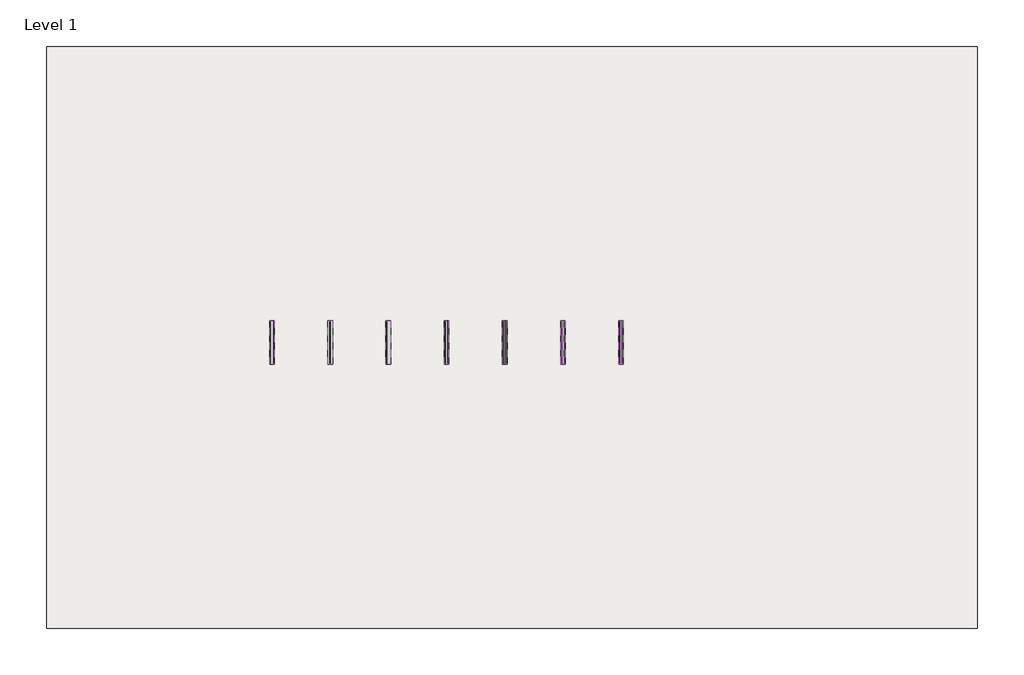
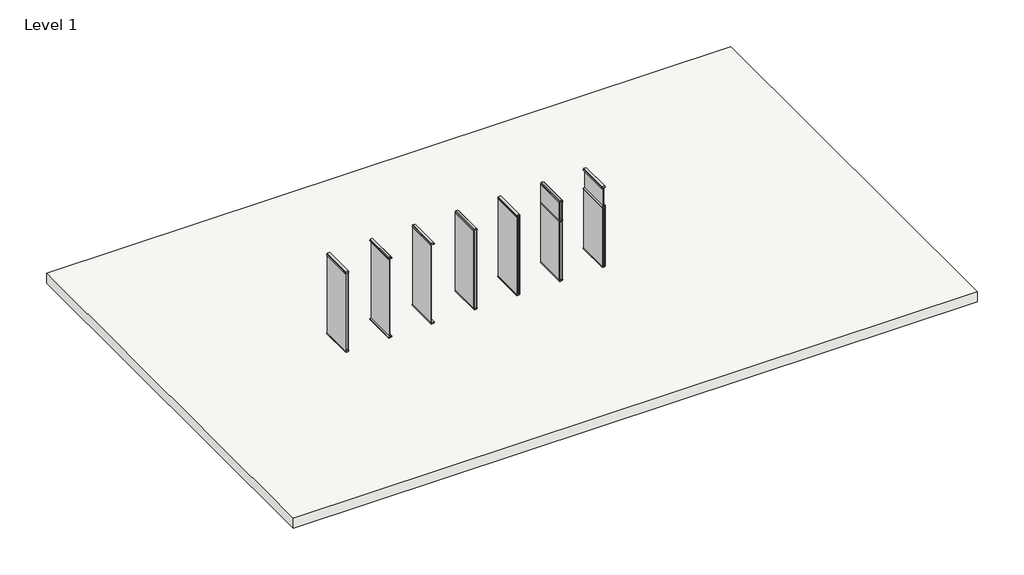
# One storey: 17 proxies, 16 members, 1 slab.
"""IFC4 building model written with IfcOpenShell, lengths in millimetres."""

from ifc_helpers import new_model, si_unit, frame, origin, place, context, project, spatial, polyline, outline, extrude, transform, mapped, element, save
from components import hardware_teknion_electrical_module_receptacle_module_9a6c8bcf, panel_fascia_teknion_focus_clerestory_glass_8944ff04, panel_fascia_teknion_focus_clerestory_glass_b00a05dd, panel_fascia_teknion_focus_glass_fwg_2c213c9e, panel_fascia_teknion_focus_glass_fwg_2d823114, panel_fascia_teknion_focus_solid_with_cutout_fws3_29f18c5e, panel_fascia_teknion_focus_solid_without_cutout_fws1_c4e99436, panel_fascia_teknion_focus_solid_without_cutout_fws1_36857b67, panel_fascia_teknion_focus_solid_without_cutout_fws1_06f19bdd, panel_fascia_teknion_focus_solid_without_cutout_fws1_a7163688, rectangular_mullion_f7915584, rectangular_mullion_34f2c36c, rectangular_mullion_a94b21ff, rectangular_mullion_0b3d91d6, rectangular_mullion_4fcc7cb8, rectangular_mullion_ff33a640, rectangular_mullion_0c8c3a63, rectangular_mullion_3b6ea71f, rectangular_mullion_ca275080, rectangular_mullion_2dd43c7a

model = new_model("IFC4")

# Units and contexts
model_context = context("Model", 3, world=origin())
ifc_project = project(units=[si_unit("LENGTHUNIT", "METRE", prefix="MILLI")], contexts=[model_context])

# Site, building, storey
site = spatial("IfcSite", under=ifc_project)
building = spatial("IfcBuilding", under=site)
storey = spatial("IfcBuildingStorey", under=building, Name="Level 1", Elevation=0.0)

# Proxies
placement = place(None, origin())
hardware_teknion_electrical_module_receptacle_module_shape = hardware_teknion_electrical_module_receptacle_module_9a6c8bcf(model_context)
element("IfcBuildingElementProxy", 1, Name="Hardware-Teknion-Electrical_Module : Receptacle Module", ObjectType="Hardware-Teknion-Electrical_Module : Receptacle Module", at=placement, inside=storey, context=model_context, shape_type="MappedRepresentation", body=[
    mapped(hardware_teknion_electrical_module_receptacle_module_shape, transform((-1155.1611367, 1970.21459, 520.9637545), x_axis=(0.0, -1.0, 0.0), y_axis=(0.0, 0.0, -1.0), z_axis=(1.0, 0.0, 0.0))),
])
element("IfcBuildingElementProxy", 2, Name="Hardware-Teknion-Electrical_Module : Receptacle Module", ObjectType="Hardware-Teknion-Electrical_Module : Receptacle Module", at=placement, inside=storey, context=model_context, shape_type="MappedRepresentation", body=[
    mapped(hardware_teknion_electrical_module_receptacle_module_shape, transform((-1155.1611367, 1870.21459, 520.9637545), x_axis=(0.0, -1.0, 0.0), y_axis=(0.0, 0.0, -1.0), z_axis=(1.0, 0.0, 0.0))),
])
panel_fascia_teknion_focus_clerestory_glass_shape = panel_fascia_teknion_focus_clerestory_glass_8944ff04(model_context)
element("IfcBuildingElementProxy", 3, Name="Panel-Fascia-Teknion-Focus-Clerestory_Glass : FWGS", ObjectType="Panel-Fascia-Teknion-Focus-Clerestory_Glass : FWGS", at=placement, inside=storey, context=model_context, shape_type="MappedRepresentation", body=[
    mapped(panel_fascia_teknion_focus_clerestory_glass_shape, transform((1240.9888633, 2020.21459, 1828.3), x_axis=(0.0, -1.0, 0.0), y_axis=(1.0, 0.0, 0.0), z_axis=(0.0, 0.0, 1.0))),
])
panel_fascia_teknion_focus_clerestory_glass_2_shape = panel_fascia_teknion_focus_clerestory_glass_b00a05dd(model_context)
element("IfcBuildingElementProxy", 4, Name="Panel-Fascia-Teknion-Focus-Clerestory_Glass : FWGS", ObjectType="Panel-Fascia-Teknion-Focus-Clerestory_Glass : FWGS", at=placement, inside=storey, context=model_context, shape_type="MappedRepresentation", body=[
    mapped(panel_fascia_teknion_focus_clerestory_glass_2_shape, transform((58.4888633, 2020.21459, 1829.5401613), x_axis=(0.0, -1.0, 0.0), y_axis=(1.0, 0.0, 0.0), z_axis=(0.0, 0.0, 1.0))),
])
element("IfcBuildingElementProxy", 5, Name="Panel-Fascia-Teknion-Focus-Clerestory_Glass : FWGS", ObjectType="Panel-Fascia-Teknion-Focus-Clerestory_Glass : FWGS", at=placement, inside=storey, context=model_context, shape_type="MappedRepresentation", body=[
    mapped(panel_fascia_teknion_focus_clerestory_glass_2_shape, transform((-14.9111367, 2020.21459, 1829.5401613), x_axis=(0.0, -1.0, 0.0), y_axis=(1.0, 0.0, 0.0), z_axis=(0.0, 0.0, 1.0))),
])
panel_fascia_teknion_focus_glass_fwg_shape = panel_fascia_teknion_focus_glass_fwg_2c213c9e(model_context)
element("IfcBuildingElementProxy", 6, Name="Panel-Fascia-Teknion-Focus-Glass : FWG", ObjectType="Panel-Fascia-Teknion-Focus-Glass : FWG", at=placement, inside=storey, context=model_context, shape_type="MappedRepresentation", body=[
    mapped(panel_fascia_teknion_focus_glass_fwg_shape, transform((-3672.5111367, 2020.21459, 32.0), x_axis=(0.0, -1.0, 0.0), y_axis=(1.0, 0.0, 0.0), z_axis=(0.0, 0.0, 1.0))),
])
element("IfcBuildingElementProxy", 7, Name="Panel-Fascia-Teknion-Focus-Glass : FWG", ObjectType="Panel-Fascia-Teknion-Focus-Glass : FWG", at=placement, inside=storey, context=model_context, shape_type="MappedRepresentation", body=[
    mapped(panel_fascia_teknion_focus_glass_fwg_shape, transform((-6037.5111367, 2020.21459, 32.0), x_axis=(0.0, -1.0, 0.0), y_axis=(1.0, 0.0, 0.0), z_axis=(0.0, 0.0, 1.0))),
])
element("IfcBuildingElementProxy", 8, Name="Panel-Fascia-Teknion-Focus-Glass : FWG", ObjectType="Panel-Fascia-Teknion-Focus-Glass : FWG", at=placement, inside=storey, context=model_context, shape_type="MappedRepresentation", body=[
    mapped(panel_fascia_teknion_focus_glass_fwg_shape, transform((-6110.9111367, 2020.21459, 32.0), x_axis=(0.0, -1.0, 0.0), y_axis=(1.0, 0.0, 0.0), z_axis=(0.0, 0.0, 1.0))),
])
panel_fascia_teknion_focus_glass_fwg_2_shape = panel_fascia_teknion_focus_glass_fwg_2d823114(model_context)
element("IfcBuildingElementProxy", 9, Name="Panel-Fascia-Teknion-Focus-Glass : FWG", ObjectType="Panel-Fascia-Teknion-Focus-Glass : FWG", at=placement, inside=storey, context=model_context, shape_type="MappedRepresentation", body=[
    mapped(panel_fascia_teknion_focus_glass_fwg_2_shape, transform((-4855.0111367, 2020.21459, 31.999989), x_axis=(0.0, -1.0, 0.0), y_axis=(1.0, 0.0, 0.0), z_axis=(0.0, 0.0, 1.0))),
])
panel_fascia_teknion_focus_solid_with_cutout_fws3_shape = panel_fascia_teknion_focus_solid_with_cutout_fws3_29f18c5e(model_context)
element("IfcBuildingElementProxy", 10, Name="Panel-Fascia-Teknion-Focus-Solid_With_Cutout : FWS3", ObjectType="Panel-Fascia-Teknion-Focus-Solid_With_Cutout : FWS3", at=placement, inside=storey, context=model_context, shape_type="MappedRepresentation", body=[
    mapped(panel_fascia_teknion_focus_solid_with_cutout_fws3_shape, transform((-1164.4111367, 2020.21459, 31.6999916), x_axis=(0.0, -1.0, 0.0), y_axis=(1.0, 0.0, 0.0), z_axis=(0.0, 0.0, 1.0))),
])
panel_fascia_teknion_focus_solid_without_cutout_fws1_shape = panel_fascia_teknion_focus_solid_without_cutout_fws1_c4e99436(model_context)
element("IfcBuildingElementProxy", 11, Name="Panel-Fascia-Teknion-Focus-Solid_Without_Cutout : FWS1", ObjectType="Panel-Fascia-Teknion-Focus-Solid_Without_Cutout : FWS1", at=placement, inside=storey, context=model_context, shape_type="MappedRepresentation", body=[
    mapped(panel_fascia_teknion_focus_solid_without_cutout_fws1_shape, transform((-1230.4111367, 2020.21459, 31.6999916), x_axis=(0.0, -1.0, 0.0), y_axis=(1.0, 0.0, 0.0), z_axis=(0.0, 0.0, 1.0))),
])
panel_fascia_teknion_focus_solid_without_cutout_fws1_2_shape = panel_fascia_teknion_focus_solid_without_cutout_fws1_36857b67(model_context)
element("IfcBuildingElementProxy", 12, Name="Panel-Fascia-Teknion-Focus-Solid_Without_Cutout : FWS1", ObjectType="Panel-Fascia-Teknion-Focus-Solid_Without_Cutout : FWS1", at=placement, inside=storey, context=model_context, shape_type="MappedRepresentation", body=[
    mapped(panel_fascia_teknion_focus_solid_without_cutout_fws1_2_shape, transform((-2383.6111367, 2020.21459, 31.6999916), x_axis=(0.0, -1.0, 0.0), y_axis=(1.0, 0.0, 0.0), z_axis=(0.0, 0.0, 1.0))),
])
element("IfcBuildingElementProxy", 13, Name="Panel-Fascia-Teknion-Focus-Solid_Without_Cutout : FWS1", ObjectType="Panel-Fascia-Teknion-Focus-Solid_Without_Cutout : FWS1", at=placement, inside=storey, context=model_context, shape_type="MappedRepresentation", body=[
    mapped(panel_fascia_teknion_focus_solid_without_cutout_fws1_2_shape, transform((-2449.6111367, 2020.21459, 31.6999916), x_axis=(0.0, -1.0, 0.0), y_axis=(1.0, 0.0, 0.0), z_axis=(0.0, 0.0, 1.0))),
])
panel_fascia_teknion_focus_solid_without_cutout_fws1_3_shape = panel_fascia_teknion_focus_solid_without_cutout_fws1_06f19bdd(model_context)
element("IfcBuildingElementProxy", 14, Name="Panel-Fascia-Teknion-Focus-Solid_Without_Cutout : FWS1", ObjectType="Panel-Fascia-Teknion-Focus-Solid_Without_Cutout : FWS1", at=placement, inside=storey, context=model_context, shape_type="MappedRepresentation", body=[
    mapped(panel_fascia_teknion_focus_solid_without_cutout_fws1_3_shape, transform((1273.9888633, 2020.21459, 31.6999916), x_axis=(0.0, -1.0, 0.0), y_axis=(1.0, 0.0, 0.0), z_axis=(0.0, 0.0, 1.0))),
])
element("IfcBuildingElementProxy", 15, Name="Panel-Fascia-Teknion-Focus-Solid_Without_Cutout : FWS1", ObjectType="Panel-Fascia-Teknion-Focus-Solid_Without_Cutout : FWS1", at=placement, inside=storey, context=model_context, shape_type="MappedRepresentation", body=[
    mapped(panel_fascia_teknion_focus_solid_without_cutout_fws1_3_shape, transform((1207.9888633, 2020.21459, 31.6999916), x_axis=(0.0, -1.0, 0.0), y_axis=(1.0, 0.0, 0.0), z_axis=(0.0, 0.0, 1.0))),
])
panel_fascia_teknion_focus_solid_without_cutout_fws1_4_shape = panel_fascia_teknion_focus_solid_without_cutout_fws1_a7163688(model_context)
element("IfcBuildingElementProxy", 16, Name="Panel-Fascia-Teknion-Focus-Solid_Without_Cutout : FWS1", ObjectType="Panel-Fascia-Teknion-Focus-Solid_Without_Cutout : FWS1", at=placement, inside=storey, context=model_context, shape_type="MappedRepresentation", body=[
    mapped(panel_fascia_teknion_focus_solid_without_cutout_fws1_4_shape, transform((54.7888633, 2020.21459, 31.6999916), x_axis=(0.0, -1.0, 0.0), y_axis=(1.0, 0.0, 0.0), z_axis=(0.0, 0.0, 1.0))),
])
element("IfcBuildingElementProxy", 17, Name="Panel-Fascia-Teknion-Focus-Solid_Without_Cutout : FWS1", ObjectType="Panel-Fascia-Teknion-Focus-Solid_Without_Cutout : FWS1", at=placement, inside=storey, context=model_context, shape_type="MappedRepresentation", body=[
    mapped(panel_fascia_teknion_focus_solid_without_cutout_fws1_4_shape, transform((-11.2111367, 2020.21459, 31.6999916), x_axis=(0.0, -1.0, 0.0), y_axis=(1.0, 0.0, 0.0), z_axis=(0.0, 0.0, 1.0))),
])

# Members
rectangular_mullion_shape = rectangular_mullion_f7915584(model_context)
element("IfcMember", 18, ObjectType="Rectangular Mullion : Trim-Horizontal-Teknion-Focus-FWDC", at=placement, inside=storey, context=model_context, shape_type="MappedRepresentation", body=[
    mapped(rectangular_mullion_shape, transform((-6074.2111367, 1563.01459, 2438.4), x_axis=(0.0, 0.0, 1.0), y_axis=(-1.0, 0.0, 0.0), z_axis=(0.0, -1.0, 0.0))),
])
element("IfcMember", 19, ObjectType="Rectangular Mullion : Trim-Horizontal-Teknion-Focus-FWDC", at=placement, inside=storey, context=model_context, shape_type="MappedRepresentation", body=[
    mapped(rectangular_mullion_shape, transform((21.7888633, 1563.01459, 2438.4), x_axis=(0.0, 0.0, 1.0), y_axis=(-1.0, 0.0, 0.0), z_axis=(0.0, -1.0, 0.0))),
])
rectangular_mullion_2_shape = rectangular_mullion_34f2c36c(model_context)
element("IfcMember", 20, ObjectType="Rectangular Mullion : Trim-Horizontal-Teknion-Focus-FWDB", at=placement, inside=storey, context=model_context, shape_type="MappedRepresentation", body=[
    mapped(rectangular_mullion_2_shape, transform((-6074.2111367, 2477.41459, 0.0), x_axis=(0.0, 0.0, -1.0), y_axis=(-1.0, 0.0, 0.0), z_axis=(0.0, 1.0, 0.0))),
])
rectangular_mullion_3_shape = rectangular_mullion_a94b21ff(model_context)
element("IfcMember", 21, ObjectType="Rectangular Mullion : Trim-Horizontal-Teknion-Focus-FWCC", at=placement, inside=storey, context=model_context, shape_type="MappedRepresentation", body=[
    mapped(rectangular_mullion_3_shape, transform((-4855.0111367, 1563.01459, 2438.4), x_axis=(0.0, 0.0, 1.0), y_axis=(-1.0, 0.0, 0.0), z_axis=(0.0, -1.0, 0.0))),
])
element("IfcMember", 22, ObjectType="Rectangular Mullion : Trim-Horizontal-Teknion-Focus-FWCC", at=placement, inside=storey, context=model_context, shape_type="MappedRepresentation", body=[
    mapped(rectangular_mullion_3_shape, transform((1240.9888633, 1563.01459, 2438.4), x_axis=(0.0, 0.0, 1.0), y_axis=(-1.0, 0.0, 0.0), z_axis=(0.0, -1.0, 0.0))),
])
rectangular_mullion_4_shape = rectangular_mullion_0b3d91d6(model_context)
element("IfcMember", 23, ObjectType="Rectangular Mullion : Trim-Horizontal-Teknion-Focus-FWCB", at=placement, inside=storey, context=model_context, shape_type="MappedRepresentation", body=[
    mapped(rectangular_mullion_4_shape, transform((-4855.0111367, 2477.41459, 0.0), x_axis=(0.0, 0.0, -1.0), y_axis=(-1.0, 0.0, 0.0), z_axis=(0.0, 1.0, 0.0))),
])
rectangular_mullion_5_shape = rectangular_mullion_4fcc7cb8(model_context)
element("IfcMember", 24, ObjectType="Rectangular Mullion : Trim-Horizontal-Teknion-Focus-FWOC", at=placement, inside=storey, context=model_context, shape_type="MappedRepresentation", body=[
    mapped(rectangular_mullion_5_shape, transform((-3635.8111367, 1563.01459, 2438.4), x_axis=(0.0, 0.0, 1.0), y_axis=(-1.0, 0.0, 0.0), z_axis=(0.0, -1.0, 0.0))),
])
rectangular_mullion_6_shape = rectangular_mullion_ff33a640(model_context)
element("IfcMember", 25, ObjectType="Rectangular Mullion : Trim-Horizontal-Teknion-Focus-FWOB", at=placement, inside=storey, context=model_context, shape_type="MappedRepresentation", body=[
    mapped(rectangular_mullion_6_shape, transform((-3635.8111367, 2477.41459, 0.0), x_axis=(0.0, 0.0, -1.0), y_axis=(-1.0, 0.0, 0.0), z_axis=(0.0, 1.0, 0.0))),
])
rectangular_mullion_7_shape = rectangular_mullion_0c8c3a63(model_context)
element("IfcMember", 26, ObjectType="Rectangular Mullion : Trim-Horizontal-Teknion-Focus-FWSC", at=placement, inside=storey, context=model_context, shape_type="MappedRepresentation", body=[
    mapped(rectangular_mullion_7_shape, transform((-2416.6111367, 1563.01459, 2438.4), x_axis=(0.0, 0.0, 1.0), y_axis=(-1.0, 0.0, 0.0), z_axis=(0.0, -1.0, 0.0))),
])
element("IfcMember", 27, ObjectType="Rectangular Mullion : Trim-Horizontal-Teknion-Focus-FWSC", at=placement, inside=storey, context=model_context, shape_type="MappedRepresentation", body=[
    mapped(rectangular_mullion_7_shape, transform((-1197.4111367, 1563.01459, 2438.4), x_axis=(0.0, 0.0, 1.0), y_axis=(-1.0, 0.0, 0.0), z_axis=(0.0, -1.0, 0.0))),
])
rectangular_mullion_8_shape = rectangular_mullion_3b6ea71f(model_context)
element("IfcMember", 28, ObjectType="Rectangular Mullion : Trim-Horizontal-Teknion-Focus-FWSB", at=placement, inside=storey, context=model_context, shape_type="MappedRepresentation", body=[
    mapped(rectangular_mullion_8_shape, transform((-2416.6111367, 2477.41459, 0.0), x_axis=(0.0, 0.0, -1.0), y_axis=(-1.0, 0.0, 0.0), z_axis=(0.0, 1.0, 0.0))),
])
element("IfcMember", 29, ObjectType="Rectangular Mullion : Trim-Horizontal-Teknion-Focus-FWSB", at=placement, inside=storey, context=model_context, shape_type="MappedRepresentation", body=[
    mapped(rectangular_mullion_8_shape, transform((21.7888633, 2477.41459, 0.0), x_axis=(0.0, 0.0, -1.0), y_axis=(-1.0, 0.0, 0.0), z_axis=(0.0, 1.0, 0.0))),
])
element("IfcMember", 30, ObjectType="Rectangular Mullion : Trim-Horizontal-Teknion-Focus-FWSB", at=placement, inside=storey, context=model_context, shape_type="MappedRepresentation", body=[
    mapped(rectangular_mullion_8_shape, transform((1240.9888633, 2477.41459, 0.0), x_axis=(0.0, 0.0, -1.0), y_axis=(-1.0, 0.0, 0.0), z_axis=(0.0, 1.0, 0.0))),
])
element("IfcMember", 31, ObjectType="Rectangular Mullion : Trim-Horizontal-Teknion-Focus-FWSB", at=placement, inside=storey, context=model_context, shape_type="MappedRepresentation", body=[
    mapped(rectangular_mullion_8_shape, transform((-1197.4111367, 2477.41459, 0.0), x_axis=(0.0, 0.0, -1.0), y_axis=(-1.0, 0.0, 0.0), z_axis=(0.0, 1.0, 0.0))),
])
rectangular_mullion_9_shape = rectangular_mullion_ca275080(model_context)
element("IfcMember", 32, ObjectType="Rectangular Mullion : Trim-Horizontal-Teknion-Focus-FWSDGH", at=placement, inside=storey, context=model_context, shape_type="MappedRepresentation", body=[
    mapped(rectangular_mullion_9_shape, transform((21.7888633, 1563.01459, 1828.8), x_axis=(0.0, 0.0, 1.0), y_axis=(-1.0, 0.0, 0.0), z_axis=(0.0, -1.0, 0.0))),
])
rectangular_mullion_10_shape = rectangular_mullion_2dd43c7a(model_context)
element("IfcMember", 33, ObjectType="Rectangular Mullion : Trim-Horizontal-Teknion-Focus-FWSSGH", at=placement, inside=storey, context=model_context, shape_type="MappedRepresentation", body=[
    mapped(rectangular_mullion_10_shape, transform((1240.9888633, 1563.01459, 1828.8), x_axis=(0.0, 0.0, 1.0), y_axis=(-1.0, 0.0, 0.0), z_axis=(0.0, -1.0, 0.0))),
])

# Slab
element("IfcSlab", 34, ObjectType="Generic - 12\"", at=placement, inside=storey, context=model_context, shape_type="SweptSolid", body=[
    extrude(outline(polyline([(8708.5888633, 8221.7058936), (8708.5888633, -3970.2941064), (-10798.6111367, -3970.2941064), (-10798.6111367, 8221.7058936), (8708.5888633, 8221.7058936)])), frame((0.0, 0.0, -304.8), z_axis=(0.0, 0.0, 1.0), x_axis=(1.0, 0.0, 0.0)), (0.0, 0.0, 1.0), 304.8),
])

save(model, "model.ifc")
